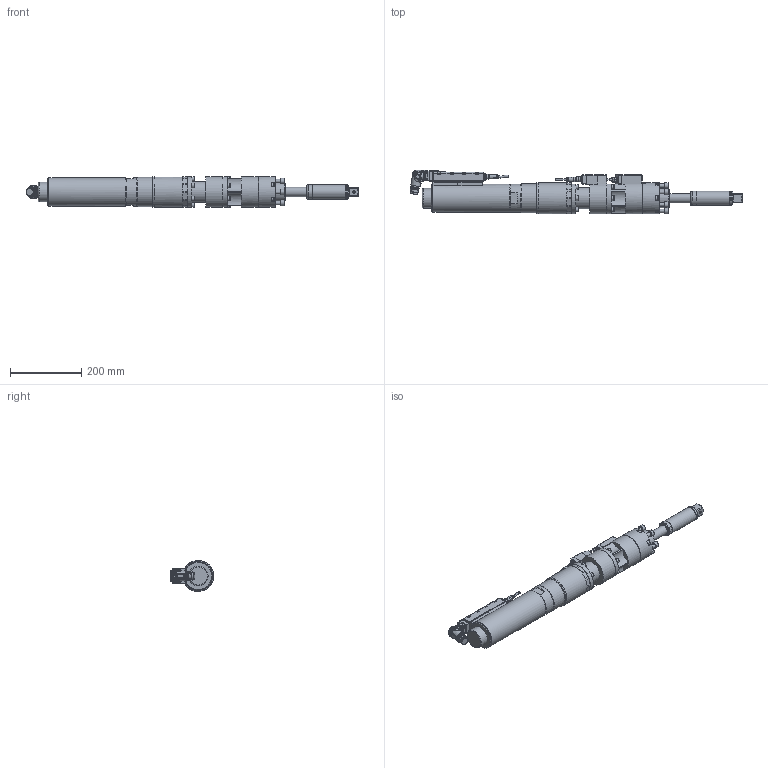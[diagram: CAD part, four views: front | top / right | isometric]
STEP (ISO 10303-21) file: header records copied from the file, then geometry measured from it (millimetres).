
FILE_DESCRIPTION (( 'STEP AP214' ), '1' );
FILE_NAME ('70082472_ESX461ZWRX800DWAX800AZX460.STEP', '2016-10-27T09:18:41', ( 'admin' ), ( '' ), 'SwSTEP 2.0', 'SolidWorks 2014', '' );
FILE_SCHEMA (( 'AUTOMOTIVE_DESIGN' ));
Length unit declared in the file: millimetre
Products named in the file (12): 7006176_3; 70082373; 70082356; 70082336; 70082311_ESX461_Standard_Winkel_2; 70082293_2; 70057493_Standard_winkel; 70057493_4; 70057493_3; 70057493_2; 70082311; 70082472_ESX461ZWRX800DWAX800AZX460
Assembly tree (12 placements, depth 4):
  70082472_ESX461ZWRX800DWAX800AZX460
    70082311_ESX461_Standard_Winkel_2
      70082311
      70057493_Standard_winkel
        70057493_2
        70057493_3
        70057493_4
      70082293_2  x2
    70082336
    70082356
    70082373
    7006176_3
Bounding box: 933.26 x 122.14 x 87 mm (x, y, z)
Volume: 3955996.4 mm3; surface area: 410803.1 mm2
Topology: 14 solids, 14 shells, 3167 faces, 8190 edges, 5301 vertices
Faces by surface type: plane 1580, cylinder 830, cone 386, bspline 270, torus 95, sphere 6
Full cylindrical faces by diameter (mm): 0.5 x14, 0.57 x14, 1.6 x2, 2 x3, 2.5 x1, 3 x4, 4.2 x1, 4.9 x5, 5 x9, 5.5 x12, 6 x3, 6.8 x18, 8 x50, 8.459 x2, 9 x2, 9.1 x1, 9.5 x1, 9.7 x1, 10 x6, 11.08 x2, 11.7 x1, 12 x1, 12.3 x2, 13 x31, 14 x5, 14.5 x2, 16 x6, 17.4 x1, 20 x1, 21.15 x1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
Entity records: 104741 total; most frequent: CARTESIAN_POINT 33774, ORIENTED_EDGE 14436, DIRECTION 12988, EDGE_CURVE 7218, VERTEX_POINT 4923, AXIS2_PLACEMENT_3D 4868, EDGE_LOOP 3787, FACE_OUTER_BOUND 3348
